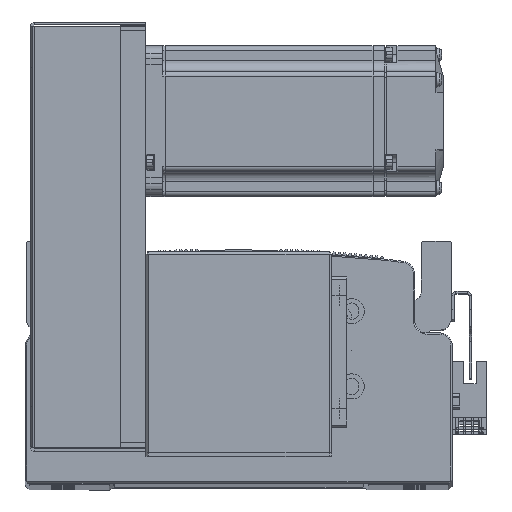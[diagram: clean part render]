
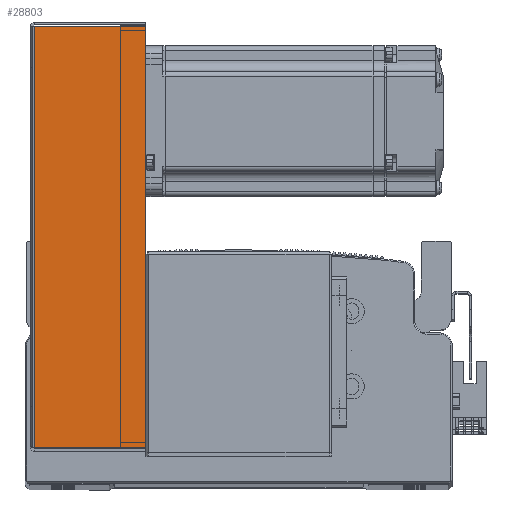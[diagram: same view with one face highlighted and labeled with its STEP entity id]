
A CAD part, top view. The second image highlights one B-rep face of the part: STEP entity #28803.
In plain terms, the highlighted planar face has unit normal (0, 0, 1) as drawn and (0, 0, -1) by its records, which use the part's own axes.
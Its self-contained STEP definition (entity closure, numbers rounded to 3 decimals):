
#3645 = EDGE_CURVE ( 'NONE', #55544, #55610, #69291, .T. ) ;
#3767 = EDGE_CURVE ( 'NONE', #55563, #55523, #69445, .T. ) ;
#3773 = EDGE_CURVE ( 'NONE', #55610, #55523, #69412, .T. ) ;
#3843 = EDGE_CURVE ( 'NONE', #55544, #55563, #69519, .T. ) ;
#14671 = FACE_OUTER_BOUND ( 'NONE', #44192, .T. ) ;
#18753 = AXIS2_PLACEMENT_3D ( 'NONE', #20711, #20742, #20748 ) ;
#20695 = PLANE ( 'NONE',  #18753 ) ;
#20711 = CARTESIAN_POINT ( 'NONE',  ( 0., 0., -40.5 ) ) ;
#20742 = DIRECTION ( 'NONE',  ( 0., 0., 1. ) ) ;
#20748 = DIRECTION ( 'NONE',  ( 0., -1., 0. ) ) ;
#28803 = ADVANCED_FACE ( 'NONE', ( #14671 ), #20695, .F. ) ;
#31847 = CARTESIAN_POINT ( 'NONE',  ( -83.793, 0.737, -40.5 ) ) ;
#31854 = CARTESIAN_POINT ( 'NONE',  ( -83.793, 45., -40.5 ) ) ;
#31881 = CARTESIAN_POINT ( 'NONE',  ( 83.793, 45., -40.5 ) ) ;
#31930 = CARTESIAN_POINT ( 'NONE',  ( 83.793, 0.737, -40.5 ) ) ;
#40457 = ORIENTED_EDGE ( 'NONE', *, *, #3773, .F. ) ;
#40474 = ORIENTED_EDGE ( 'NONE', *, *, #3767, .T. ) ;
#43177 = ORIENTED_EDGE ( 'NONE', *, *, #3645, .F. ) ;
#43183 = ORIENTED_EDGE ( 'NONE', *, *, #3843, .T. ) ;
#44192 = EDGE_LOOP ( 'NONE', ( #43177, #43183, #40474, #40457 ) ) ;
#55523 = VERTEX_POINT ( 'NONE', #31881 ) ;
#55544 = VERTEX_POINT ( 'NONE', #31847 ) ;
#55563 = VERTEX_POINT ( 'NONE', #31854 ) ;
#55610 = VERTEX_POINT ( 'NONE', #31930 ) ;
#58975 = CARTESIAN_POINT ( 'NONE',  ( 0., 0.737, -40.5 ) ) ;
#59074 = DIRECTION ( 'NONE',  ( 1., 0., 0. ) ) ;
#59252 = CARTESIAN_POINT ( 'NONE',  ( 83.793, 0., -40.5 ) ) ;
#59300 = DIRECTION ( 'NONE',  ( 1., 0., 0. ) ) ;
#59328 = CARTESIAN_POINT ( 'NONE',  ( 84.5, 45., -40.5 ) ) ;
#59331 = DIRECTION ( 'NONE',  ( 0., 1., 0. ) ) ;
#59426 = CARTESIAN_POINT ( 'NONE',  ( -83.793, 0., -40.5 ) ) ;
#59454 = DIRECTION ( 'NONE',  ( 0., 1., 0. ) ) ;
#69291 = LINE ( 'NONE', #58975, #69404 ) ;
#69404 = VECTOR ( 'NONE', #59074, 1000. ) ;
#69412 = LINE ( 'NONE', #59252, #69474 ) ;
#69421 = VECTOR ( 'NONE', #59300, 1000. ) ;
#69445 = LINE ( 'NONE', #59328, #69421 ) ;
#69474 = VECTOR ( 'NONE', #59331, 1000. ) ;
#69519 = LINE ( 'NONE', #59426, #69523 ) ;
#69523 = VECTOR ( 'NONE', #59454, 1000. ) ;
